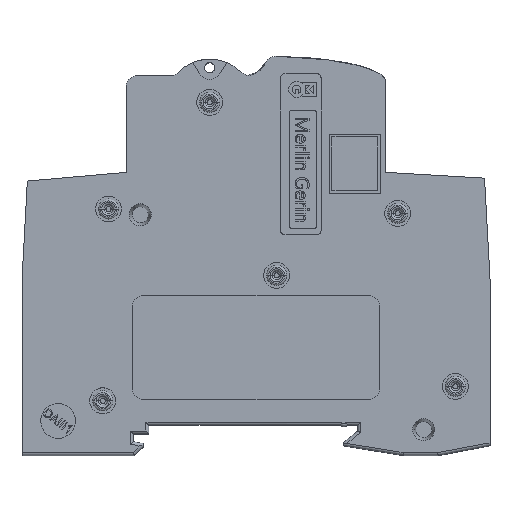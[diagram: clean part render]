
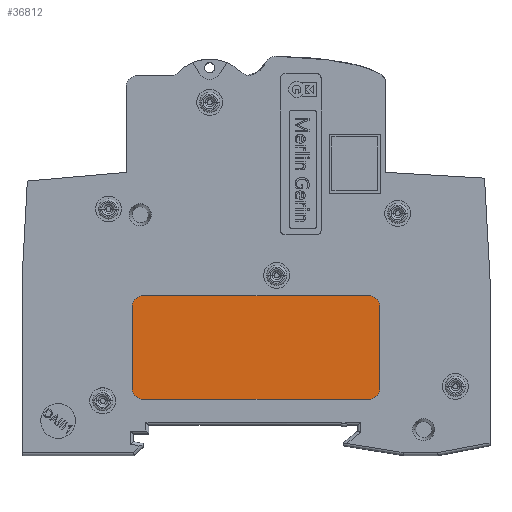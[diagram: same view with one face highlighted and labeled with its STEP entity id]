
A CAD part, top view. The second image highlights one B-rep face of the part: STEP entity #36812.
In plain terms, the highlighted planar face has unit normal (0, 0, 1).
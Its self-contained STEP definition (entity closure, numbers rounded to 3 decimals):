
#357 = DIRECTION ( 'NONE',  ( 0., 0., 1. ) ) ;
#453 = VECTOR ( 'NONE', #12805, 1000. ) ;
#1135 = EDGE_CURVE ( 'NONE', #36103, #40595, #46078, .T. ) ;
#2079 = EDGE_CURVE ( 'NONE', #40595, #16092, #18825, .T. ) ;
#2287 = CARTESIAN_POINT ( 'NONE',  ( 19.5, -12.8, 8.73 ) ) ;
#2867 = LINE ( 'NONE', #45001, #69754 ) ;
#2990 = DIRECTION ( 'NONE',  ( 0., 0., 1. ) ) ;
#4039 = CARTESIAN_POINT ( 'NONE',  ( 19.5, 1.2, 8.73 ) ) ;
#4911 = CARTESIAN_POINT ( 'NONE',  ( -19.5, 1.2, 8.73 ) ) ;
#5452 = DIRECTION ( 'NONE',  ( 1., 0., 0. ) ) ;
#5699 = FACE_OUTER_BOUND ( 'NONE', #46983, .T. ) ;
#9913 = EDGE_CURVE ( 'NONE', #51490, #18789, #2867, .T. ) ;
#11452 = EDGE_CURVE ( 'NONE', #16092, #51490, #39602, .T. ) ;
#12669 = ORIENTED_EDGE ( 'NONE', *, *, #11452, .T. ) ;
#12805 = DIRECTION ( 'NONE',  ( 1., 0., 0. ) ) ;
#13511 = CARTESIAN_POINT ( 'NONE',  ( 21.5, -14.8, 8.73 ) ) ;
#15732 = CARTESIAN_POINT ( 'NONE',  ( 19.5, -14.8, 8.73 ) ) ;
#16092 = VERTEX_POINT ( 'NONE', #33495 ) ;
#16978 = PLANE ( 'NONE',  #58213 ) ;
#17154 = CARTESIAN_POINT ( 'NONE',  ( -19.5, -14.8, 8.73 ) ) ;
#18046 = EDGE_CURVE ( 'NONE', #41317, #42317, #41112, .T. ) ;
#18554 = DIRECTION ( 'NONE',  ( 1., 0., 0. ) ) ;
#18789 = VERTEX_POINT ( 'NONE', #50729 ) ;
#18825 = LINE ( 'NONE', #13511, #62813 ) ;
#21000 = AXIS2_PLACEMENT_3D ( 'NONE', #4911, #58687, #43097 ) ;
#21297 = CARTESIAN_POINT ( 'NONE',  ( -21.5, -14.8, 8.73 ) ) ;
#22967 = ORIENTED_EDGE ( 'NONE', *, *, #9913, .T. ) ;
#23128 = AXIS2_PLACEMENT_3D ( 'NONE', #45464, #2990, #18554 ) ;
#23538 = VECTOR ( 'NONE', #69114, 1000. ) ;
#25953 = ORIENTED_EDGE ( 'NONE', *, *, #57039, .T. ) ;
#33495 = CARTESIAN_POINT ( 'NONE',  ( 21.5, 1.2, 8.73 ) ) ;
#35871 = EDGE_CURVE ( 'NONE', #18789, #41317, #54868, .T. ) ;
#36103 = VERTEX_POINT ( 'NONE', #15732 ) ;
#36812 = ADVANCED_FACE ( 'NONE', ( #5699 ), #16978, .T. ) ;
#38506 = AXIS2_PLACEMENT_3D ( 'NONE', #4039, #64903, #5452 ) ;
#39265 = CARTESIAN_POINT ( 'NONE',  ( 0., 0., 8.73 ) ) ;
#39602 = CIRCLE ( 'NONE', #38506, 2. ) ;
#39676 = DIRECTION ( 'NONE',  ( -1., 0., 0. ) ) ;
#40595 = VERTEX_POINT ( 'NONE', #49419 ) ;
#41112 = LINE ( 'NONE', #21297, #23538 ) ;
#41317 = VERTEX_POINT ( 'NONE', #45304 ) ;
#42317 = VERTEX_POINT ( 'NONE', #50972 ) ;
#43097 = DIRECTION ( 'NONE',  ( 1., 0., 0. ) ) ;
#45001 = CARTESIAN_POINT ( 'NONE',  ( 21.5, 3.2, 8.73 ) ) ;
#45304 = CARTESIAN_POINT ( 'NONE',  ( -21.5, 1.2, 8.73 ) ) ;
#45464 = CARTESIAN_POINT ( 'NONE',  ( -19.5, -12.8, 8.73 ) ) ;
#45807 = DIRECTION ( 'NONE',  ( 0., 0., 1. ) ) ;
#46078 = CIRCLE ( 'NONE', #58523, 2. ) ;
#46799 = CARTESIAN_POINT ( 'NONE',  ( 19.5, 3.2, 8.73 ) ) ;
#46983 = EDGE_LOOP ( 'NONE', ( #53006, #12669, #22967, #48090, #63544, #25953, #55163, #54149 ) ) ;
#48090 = ORIENTED_EDGE ( 'NONE', *, *, #35871, .T. ) ;
#49182 = DIRECTION ( 'NONE',  ( 1., 0., 0. ) ) ;
#49419 = CARTESIAN_POINT ( 'NONE',  ( 21.5, -12.8, 8.73 ) ) ;
#50729 = CARTESIAN_POINT ( 'NONE',  ( -19.5, 3.2, 8.73 ) ) ;
#50972 = CARTESIAN_POINT ( 'NONE',  ( -21.5, -12.8, 8.73 ) ) ;
#51370 = DIRECTION ( 'NONE',  ( 0., 1., 0. ) ) ;
#51490 = VERTEX_POINT ( 'NONE', #46799 ) ;
#53006 = ORIENTED_EDGE ( 'NONE', *, *, #2079, .T. ) ;
#53612 = CIRCLE ( 'NONE', #23128, 2. ) ;
#54149 = ORIENTED_EDGE ( 'NONE', *, *, #1135, .T. ) ;
#54868 = CIRCLE ( 'NONE', #21000, 2. ) ;
#55163 = ORIENTED_EDGE ( 'NONE', *, *, #55887, .T. ) ;
#55887 = EDGE_CURVE ( 'NONE', #66226, #36103, #56315, .T. ) ;
#56315 = LINE ( 'NONE', #56666, #453 ) ;
#56666 = CARTESIAN_POINT ( 'NONE',  ( 21.5, -14.8, 8.73 ) ) ;
#57039 = EDGE_CURVE ( 'NONE', #42317, #66226, #53612, .T. ) ;
#58213 = AXIS2_PLACEMENT_3D ( 'NONE', #39265, #357, #49182 ) ;
#58523 = AXIS2_PLACEMENT_3D ( 'NONE', #2287, #45807, #61757 ) ;
#58687 = DIRECTION ( 'NONE',  ( 0., 0., 1. ) ) ;
#61757 = DIRECTION ( 'NONE',  ( 1., 0., 0. ) ) ;
#62813 = VECTOR ( 'NONE', #51370, 1000. ) ;
#63544 = ORIENTED_EDGE ( 'NONE', *, *, #18046, .T. ) ;
#64903 = DIRECTION ( 'NONE',  ( 0., 0., 1. ) ) ;
#66226 = VERTEX_POINT ( 'NONE', #17154 ) ;
#69114 = DIRECTION ( 'NONE',  ( 0., -1., 0. ) ) ;
#69754 = VECTOR ( 'NONE', #39676, 1000. ) ;
